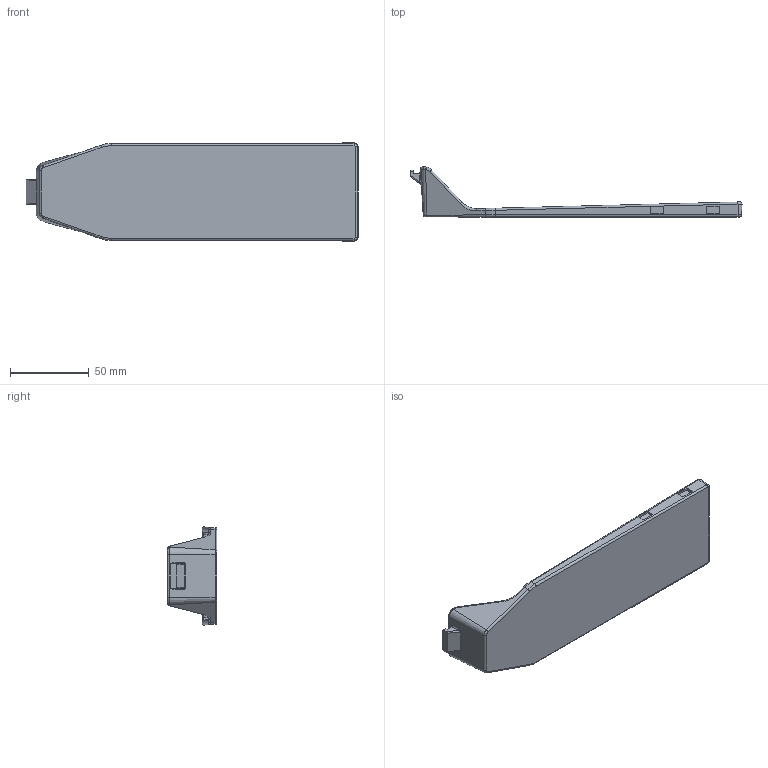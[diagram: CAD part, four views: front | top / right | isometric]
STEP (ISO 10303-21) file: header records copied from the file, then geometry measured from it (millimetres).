
FILE_DESCRIPTION (( 'STEP AP203' ), '1' );
FILE_NAME ('mini wireless charger blank.STEP', '2024-06-03T01:47:59', ( '' ), ( '' ), 'SwSTEP 2.0', 'SolidWorks 2023', '' );
FILE_SCHEMA (( 'CONFIG_CONTROL_DESIGN' ));
Length unit declared in the file: inch
Products named in the file (1): mini wireless charger blank
Bounding box: 211.19 x 31.75 x 62.36 mm (x, y, z)
Volume: 49123.2 mm3; surface area: 32001.3 mm2
Topology: 1 solids, 1 shells, 137 faces, 326 edges, 192 vertices
Faces by surface type: plane 45, cylinder 40, bspline 30, torus 12, cone 8, sphere 2
Entity records: 5055 total; most frequent: CARTESIAN_POINT 2064, ORIENTED_EDGE 648, DIRECTION 572, EDGE_CURVE 324, AXIS2_PLACEMENT_3D 208, VERTEX_POINT 192, LINE 156, VECTOR 156
